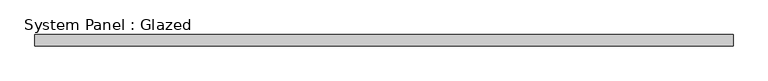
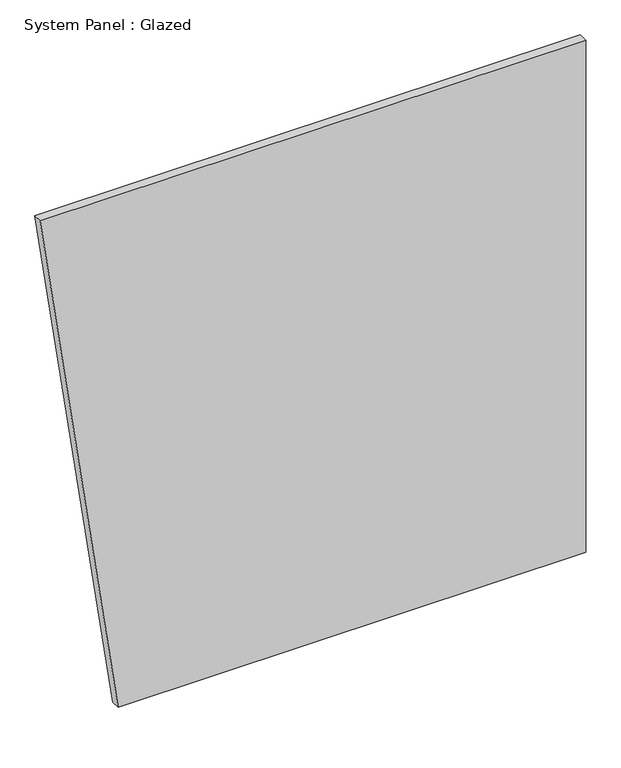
"""IFC4 building model written with IfcOpenShell, lengths in millimetres: plate geometry, System Panel : Glazed."""

import ifcopenshell
import ifcopenshell.guid

model = None  # the IFC model being written
_history = None  # IfcOwnerHistory: only IFC2X3 demands one
_inside = {}  # id of a spatial element -> (the spatial element, [elements in it])
_under = {}  # id of a project, library or spatial element -> (it, [spatial elements below it])
_declared = {}  # id of a project -> (the project, [libraries it declares])
_typed = {}  # id of a type object -> (the type object, [elements of that type])
_made_of = {}  # id of a material, layer set ... -> (it, [elements and type objects made of it])


def new_model(schema):
    """Start an empty IFC model of exactly this schema.

    Asked for "IFC4X3", IfcOpenShell would pick the latest addendum, in which some entities
    have other attributes; the version numbers below select the first issue.
    IFC2X3 requires an IfcOwnerHistory on every rooted entity: one is made here for all.
    """
    global model, _history
    if schema == "IFC4X3":
        model = ifcopenshell.file(schema_version=(4, 3, 0, 0))
    else:
        model = ifcopenshell.file(schema=schema)
    _inside.clear()
    _under.clear()
    _declared.clear()
    _typed.clear()
    _made_of.clear()
    _history = None
    if model.schema == "IFC2X3":
        org = make("IfcOrganization", Name="unknown")
        user = make(
            "IfcPersonAndOrganization",
            ThePerson=make("IfcPerson", FamilyName="unknown"),
            TheOrganization=org,
        )
        app = make(
            "IfcApplication",
            ApplicationDeveloper=org,
            Version="unknown",
            ApplicationFullName="unknown",
            ApplicationIdentifier="unknown",
        )
        _history = make(
            "IfcOwnerHistory",
            OwningUser=user,
            OwningApplication=app,
            ChangeAction="ADDED",
            CreationDate=0,
        )
    return model


def make(cls, **values):
    """One entity of the class cls with the attributes given. An attribute that is None is left unset."""
    return model.create_entity(
        cls, **{name: value for name, value in values.items() if value is not None}
    )


def rooted(cls, **values):
    """An entity with a GlobalId (a new one), such as an element, a storey or a relation."""
    return make(cls, GlobalId=ifcopenshell.guid.new(), OwnerHistory=_history, **values)


def si_unit(unit_type, name, prefix=None):
    """IfcSIUnit, for example si_unit("LENGTHUNIT", "METRE", prefix="MILLI")."""
    return make("IfcSIUnit", UnitType=unit_type, Prefix=prefix, Name=name)


def assignment(units):
    """IfcUnitAssignment: the units of a project."""
    return None if units is None else make("IfcUnitAssignment", Units=units)


def point(xyz):
    """IfcCartesianPoint."""
    return None if xyz is None else make("IfcCartesianPoint", Coordinates=xyz)


def direction(xyz):
    """IfcDirection."""
    return None if xyz is None else make("IfcDirection", DirectionRatios=xyz)


def frame(location, z_axis=None, x_axis=None):
    """IfcAxis2Placement3D, a coordinate frame: its origin and axes. An axis left out is left unset."""
    return make(
        "IfcAxis2Placement3D",
        Location=point(location),
        Axis=direction(z_axis),
        RefDirection=direction(x_axis),
    )


def origin():
    """The frame at (0, 0, 0) with its axes left unset."""
    return frame((0.0, 0.0, 0.0))


def place(relative_to, where):
    """IfcLocalPlacement: puts the frame where relative to a parent placement (None: the world)."""
    return make(
        "IfcLocalPlacement", PlacementRelTo=relative_to, RelativePlacement=where
    )


def context(
    kind, dimensions, precision=None, world=None, true_north=None, identifier=None
):
    """IfcGeometricRepresentationContext, for example the 3D "Model" context."""
    return make(
        "IfcGeometricRepresentationContext",
        ContextIdentifier=identifier,
        ContextType=kind,
        CoordinateSpaceDimension=dimensions,
        Precision=precision,
        WorldCoordinateSystem=world,
        TrueNorth=true_north,
    )


def project(units=None, contexts=None):
    """IfcProject with its units and contexts."""
    return rooted(
        "IfcProject",
        Name="project",
        RepresentationContexts=contexts,
        UnitsInContext=assignment(units),
    )


def spatial(cls, under=None, at=None, **own):
    """A site, building, storey or space (cls), placed at a placement, below another one or the project."""
    s = rooted(cls, ObjectPlacement=at, **own)
    if under is not None:
        _under.setdefault(under.id(), (under, []))[1].append(s)
    return s


def polyline(points):
    """IfcPolyline through the points."""
    return make("IfcPolyline", Points=[point(p) for p in points])


def outline(outer, holes=None, kind="AREA"):
    """IfcArbitraryClosedProfileDef: a profile drawn as a closed curve; with holes, ...WithVoids."""
    if holes is None:
        return make("IfcArbitraryClosedProfileDef", ProfileType=kind, OuterCurve=outer)
    return make(
        "IfcArbitraryProfileDefWithVoids",
        ProfileType=kind,
        OuterCurve=outer,
        InnerCurves=holes,
    )


def extrude(swept, where, along, depth):
    """IfcExtrudedAreaSolid: the profile swept, set in the frame where, extruded along a direction by depth."""
    return make(
        "IfcExtrudedAreaSolid",
        SweptArea=swept,
        Position=where,
        ExtrudedDirection=direction(along),
        Depth=depth,
    )


def shape(context_of_items, identifier, shape_type, items):
    """IfcShapeRepresentation: the items that make up one representation, for example the "Body"."""
    return make(
        "IfcShapeRepresentation",
        ContextOfItems=context_of_items,
        RepresentationIdentifier=identifier,
        RepresentationType=shape_type,
        Items=items,
    )


def source(mapping_origin, context_of_items, identifier, shape_type, items):
    """IfcRepresentationMap: a shape defined once, which mapped items show again and again."""
    return make(
        "IfcRepresentationMap",
        MappingOrigin=mapping_origin,
        MappedRepresentation=shape(context_of_items, identifier, shape_type, items),
    )


def transform(
    local_origin,
    x_axis=None,
    y_axis=None,
    z_axis=None,
    scale=None,
    scale2=None,
    scale3=None,
    uniform=True,
):
    """IfcCartesianTransformationOperator3D, or its non-uniform kind. x_axis, y_axis, z_axis: its Axis1, 2, 3."""
    if uniform:
        return make(
            "IfcCartesianTransformationOperator3D",
            Axis1=direction(x_axis),
            Axis2=direction(y_axis),
            LocalOrigin=point(local_origin),
            Scale=scale,
            Axis3=direction(z_axis),
        )
    return make(
        "IfcCartesianTransformationOperator3DnonUniform",
        Axis1=direction(x_axis),
        Axis2=direction(y_axis),
        LocalOrigin=point(local_origin),
        Scale=scale,
        Axis3=direction(z_axis),
        Scale2=scale2,
        Scale3=scale3,
    )


def mapped(mapping_source, mapping_target):
    """IfcMappedItem: shows the shape of a source again, moved by a transform."""
    return make(
        "IfcMappedItem", MappingSource=mapping_source, MappingTarget=mapping_target
    )


def made_of(thing, what):
    """Note that an element or type object is made of a material, layer set ...; save() writes the relation."""
    if what is not None:
        _made_of.setdefault(what.id(), (what, []))[1].append(thing)
    return thing


def element(
    cls,
    number,
    at=None,
    inside=None,
    cuts=None,
    type_object=None,
    material=None,
    context=None,
    identifier="Body",
    shape_type=None,
    held_by="IfcProductDefinitionShape",
    body=None,
    shapes=None,
    **own,
):
    """One element of the class cls, such as IfcWall. Its Tag is "e" and its number.

    at: its placement. inside: the storey or other place that contains it. cuts: it is an
    opening in that element (IfcRelVoidsElement). A single representation is given by context,
    identifier, shape_type and body (its items); several are given by shapes. held_by: the class
    of the entity that holds the representations. save() writes the other relations.
    """
    e = rooted(cls, Tag="e%d" % number, ObjectPlacement=at, **own)
    if body is not None:
        shapes = [shape(context, identifier, shape_type, body)]
    if shapes is not None:
        e.Representation = make(held_by, Representations=shapes)
    if inside is not None:
        _inside.setdefault(inside.id(), (inside, []))[1].append(e)
    if cuts is not None:
        rooted(
            "IfcRelVoidsElement", RelatingBuildingElement=cuts, RelatedOpeningElement=e
        )
    if type_object is not None:
        _typed.setdefault(type_object.id(), (type_object, []))[1].append(e)
    return made_of(e, material)


def aggregate(whole, parts):
    """IfcRelAggregates: a whole, such as a stair, and the parts it consists of."""
    return rooted("IfcRelAggregates", RelatingObject=whole, RelatedObjects=parts)


def save(model, path):
    """Write the relations noted so far, then the file.

    IfcRelAggregates (storeys below a building ...), IfcRelContainedInSpatialStructure (elements
    in a storey), IfcRelDefinesByType, IfcRelAssociatesMaterial and IfcRelDeclares: one each for
    every whole, place, type object, material and project.
    """
    for whole, parts in _under.values():
        aggregate(whole, parts)
    for where, things in _inside.values():
        rooted(
            "IfcRelContainedInSpatialStructure",
            RelatedElements=things,
            RelatingStructure=where,
        )
    for kind, things in _typed.values():
        rooted("IfcRelDefinesByType", RelatedObjects=things, RelatingType=kind)
    for what, things in _made_of.values():
        rooted("IfcRelAssociatesMaterial", RelatedObjects=things, RelatingMaterial=what)
    for by, libraries in _declared.values():
        rooted("IfcRelDeclares", RelatingContext=by, RelatedDefinitions=libraries)
    model.write(path)


def system_panel_glazed_068a52bf(model_context):
    return source(origin(), model_context, "Body", "SweptSolid", [
        extrude(outline(polyline([(0.0, -548.201439), (0.0, 767.4820145), (1524.0, 767.4820145), (1524.0, -767.4820145), (0.0, -548.201439)])), frame((0.0, 19.05, 0.0), z_axis=(0.0, 1.0, 0.0), x_axis=(0.0, 0.0, 1.0)), (0.0, 0.0, 1.0), 25.4),
    ])


if __name__ == "__main__":
    model = new_model("IFC4")
    model_context = context("Model", 3, world=origin())
    ifc_project = project(units=[si_unit("LENGTHUNIT", "METRE", prefix="MILLI")], contexts=[model_context])
    site = spatial("IfcSite", under=ifc_project)
    building = spatial("IfcBuilding", under=site)
    placement = place(None, origin())
    system_panel_glazed_shape = system_panel_glazed_068a52bf(model_context)
    element("IfcPlate", 1, ObjectType="System Panel : Glazed", at=placement, inside=building, context=model_context, shape_type="MappedRepresentation", body=[
        mapped(system_panel_glazed_shape, transform((0.0, 0.0, 0.0), x_axis=(1.0, 0.0, 0.0), y_axis=(0.0, 1.0, 0.0), z_axis=(0.0, 0.0, 1.0))),
    ])
    save(model, "model.ifc")
